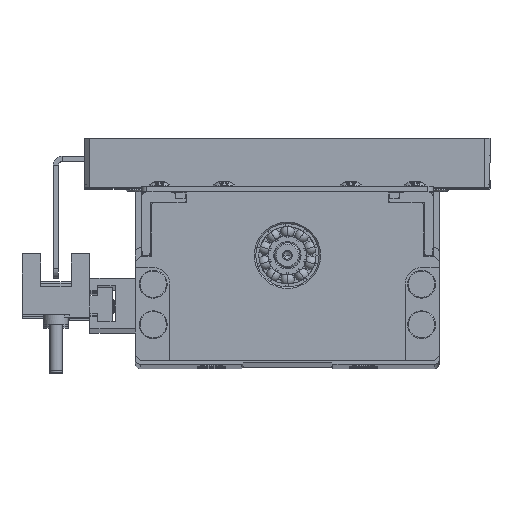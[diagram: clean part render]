
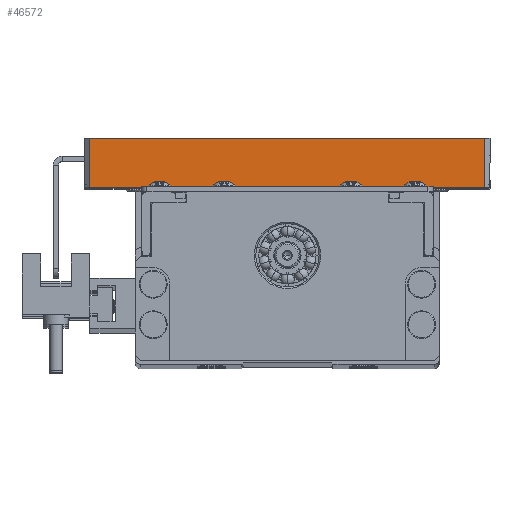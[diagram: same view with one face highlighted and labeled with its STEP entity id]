
A CAD part, top view. The second image highlights one B-rep face of the part: STEP entity #46572.
In plain terms, the highlighted planar face has unit normal (0, 0, 1).
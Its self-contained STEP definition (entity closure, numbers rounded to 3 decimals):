
#3121 = VERTEX_POINT ( 'NONE', #26625 ) ;
#3757 = EDGE_CURVE ( 'NONE', #3121, #55239, #30184, .T. ) ;
#4066 = ORIENTED_EDGE ( 'NONE', *, *, #52334, .F. ) ;
#4238 = CARTESIAN_POINT ( 'NONE',  ( 0., 46., 40. ) ) ;
#5135 = DIRECTION ( 'NONE',  ( 0., -1., 0. ) ) ;
#10681 = VECTOR ( 'NONE', #48399, 1000. ) ;
#10887 = EDGE_CURVE ( 'NONE', #3121, #18173, #12329, .T. ) ;
#12329 = LINE ( 'NONE', #16133, #19712 ) ;
#13581 = AXIS2_PLACEMENT_3D ( 'NONE', #4238, #14542, #62201 ) ;
#14542 = DIRECTION ( 'NONE',  ( 0., 0., 1. ) ) ;
#16133 = CARTESIAN_POINT ( 'NONE',  ( 40., 46., 40. ) ) ;
#16696 = ORIENTED_EDGE ( 'NONE', *, *, #48472, .T. ) ;
#17859 = CARTESIAN_POINT ( 'NONE',  ( -40., 36.3, 40. ) ) ;
#18173 = VERTEX_POINT ( 'NONE', #20694 ) ;
#19041 = ORIENTED_EDGE ( 'NONE', *, *, #3757, .T. ) ;
#19712 = VECTOR ( 'NONE', #59340, 1000. ) ;
#19862 = CARTESIAN_POINT ( 'NONE',  ( 39., 46., 40. ) ) ;
#20694 = CARTESIAN_POINT ( 'NONE',  ( 39., 46., 40. ) ) ;
#21389 = CARTESIAN_POINT ( 'NONE',  ( -39., 36.3, 40. ) ) ;
#24179 = EDGE_LOOP ( 'NONE', ( #4066, #16696, #38278, #19041 ) ) ;
#26625 = CARTESIAN_POINT ( 'NONE',  ( -39., 46., 40. ) ) ;
#28126 = LINE ( 'NONE', #17859, #10681 ) ;
#30184 = LINE ( 'NONE', #61759, #50646 ) ;
#38278 = ORIENTED_EDGE ( 'NONE', *, *, #10887, .F. ) ;
#40805 = DIRECTION ( 'NONE',  ( 0., 1., 0. ) ) ;
#42528 = CARTESIAN_POINT ( 'NONE',  ( 39., 36.3, 40. ) ) ;
#46572 = ADVANCED_FACE ( 'NONE', ( #57715 ), #62535, .T. ) ;
#48399 = DIRECTION ( 'NONE',  ( -1., 0., 0. ) ) ;
#48472 = EDGE_CURVE ( 'NONE', #52426, #18173, #51429, .T. ) ;
#50646 = VECTOR ( 'NONE', #5135, 1000. ) ;
#51429 = LINE ( 'NONE', #19862, #53124 ) ;
#52334 = EDGE_CURVE ( 'NONE', #52426, #55239, #28126, .T. ) ;
#52426 = VERTEX_POINT ( 'NONE', #42528 ) ;
#53124 = VECTOR ( 'NONE', #40805, 1000. ) ;
#55239 = VERTEX_POINT ( 'NONE', #21389 ) ;
#57715 = FACE_OUTER_BOUND ( 'NONE', #24179, .T. ) ;
#59340 = DIRECTION ( 'NONE',  ( 1., 0., 0. ) ) ;
#61759 = CARTESIAN_POINT ( 'NONE',  ( -39., 36.3, 40. ) ) ;
#62201 = DIRECTION ( 'NONE',  ( 1., 0., 0. ) ) ;
#62535 = PLANE ( 'NONE',  #13581 ) ;
